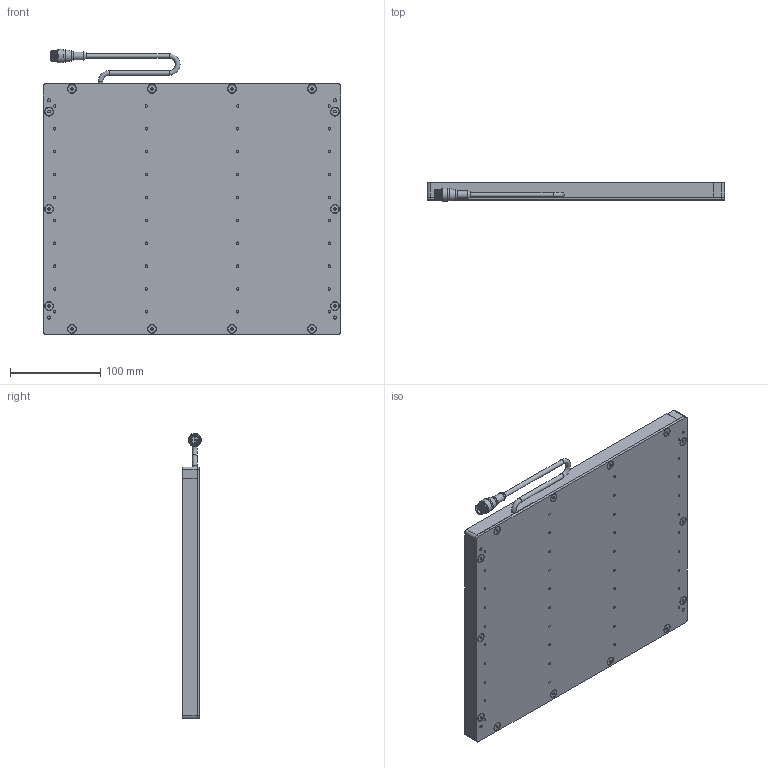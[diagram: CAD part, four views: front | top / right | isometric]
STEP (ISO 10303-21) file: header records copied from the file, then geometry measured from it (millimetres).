
FILE_DESCRIPTION (( 'STEP AP214' ), '1' );
FILE_NAME ('SBL1012-XXX-WDC.STEP', '2026-04-17T18:24:37', ( '' ), ( '' ), 'SwSTEP 2.0', 'SolidWorks 2025', '' );
FILE_SCHEMA (( 'AUTOMOTIVE_DESIGN' ));
Length unit declared in the file: inch
Products named in the file (11): M12 Connector 4,5 and 8 pin_RS4.5T; SC Pigtail Complete 18_5pin; SBL3 to 18in rail_10in No CG; 8-32 x 0.375 FHCS (92210A192)_92210A192; SBL1012-XXX-WDC; SBL3 to 18in rail_12in No CG; Hex Standoff .375 x 8-32; MC Pigtail 24; BackPlate BLYYXX_1012; WD-SBLYYXX_10x12; SBL3 to 18in rail_12in rail
Assembly tree (37 placements, depth 3):
  SBL1012-XXX-WDC
    BackPlate BLYYXX_1012
    SBL3 to 18in rail_12in rail
    SBL3 to 18in rail_12in No CG
    SBL3 to 18in rail_10in No CG  x2
    SC Pigtail Complete 18_5pin
      MC Pigtail 24
      M12 Connector 4,5 and 8 pin_RS4.5T
    WD-SBLYYXX_10x12
    Hex Standoff .375 x 8-32  x14
    8-32 x 0.375 FHCS (92210A192)_92210A192  x14
Bounding box: 330.2 x 20.74 x 316.93 mm (x, y, z)
Volume: 764811.9 mm3; surface area: 461025.3 mm2
Topology: 36 solids, 36 shells, 988 faces, 2306 edges, 1419 vertices
Faces by surface type: plane 393, cylinder 292, cone 229, bspline 42, torus 27, sphere 5
Full cylindrical faces by diameter (mm): 0.762 x5, 2.705 x40, 3.454 x18, 4.496 x28, 5.207 x3, 6.604 x8, 6.858 x14, 8.382 x1, 8.636 x1, 9.119 x14, 10.16 x1, 10.541 x1, 11.938 x1, 13.716 x2, 14.732 x1
Entity records: 16135 total; most frequent: CARTESIAN_POINT 4129, DIRECTION 2303, ORIENTED_EDGE 1838, AXIS2_PLACEMENT_3D 952, EDGE_CURVE 919, EDGE_LOOP 759, VERTEX_POINT 690, FACE_OUTER_BOUND 543
